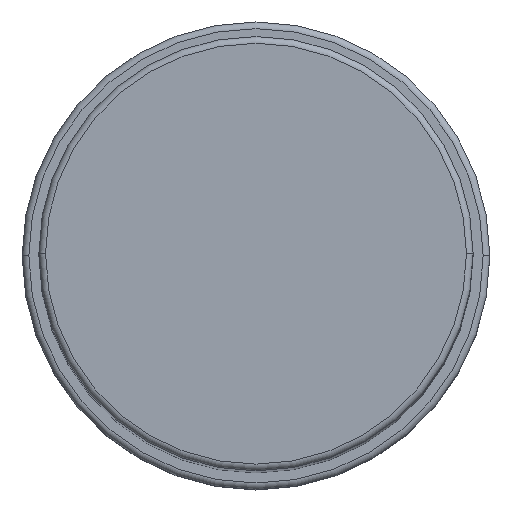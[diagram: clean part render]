
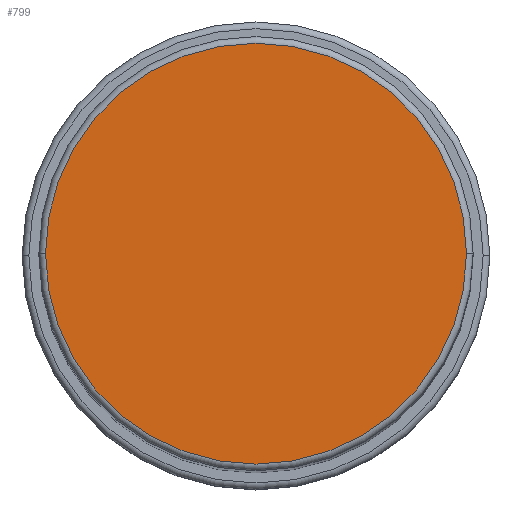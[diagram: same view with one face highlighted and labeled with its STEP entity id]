
A CAD part, top view. The second image highlights one B-rep face of the part: STEP entity #799.
In plain terms, the highlighted planar face has unit normal (0, 0, 1).
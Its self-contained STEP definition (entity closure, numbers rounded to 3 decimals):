
#38 = DIRECTION ( 'NONE',  ( 0., 0., 1. ) ) ;
#199 = VERTEX_POINT ( 'NONE', #1919 ) ;
#234 = CARTESIAN_POINT ( 'NONE',  ( 0., 0., 198. ) ) ;
#285 = CARTESIAN_POINT ( 'NONE',  ( 0., 0., 198. ) ) ;
#323 = DIRECTION ( 'NONE',  ( 1., 0., 0. ) ) ;
#337 = EDGE_CURVE ( 'NONE', #531, #199, #1595, .T. ) ;
#353 = AXIS2_PLACEMENT_3D ( 'NONE', #234, #692, #1336 ) ;
#457 = PLANE ( 'NONE',  #1093 ) ;
#516 = ORIENTED_EDGE ( 'NONE', *, *, #337, .T. ) ;
#521 = CARTESIAN_POINT ( 'NONE',  ( 31.5, 0., 198. ) ) ;
#531 = VERTEX_POINT ( 'NONE', #521 ) ;
#677 = ORIENTED_EDGE ( 'NONE', *, *, #1281, .T. ) ;
#692 = DIRECTION ( 'NONE',  ( 0., 0., 1. ) ) ;
#716 = CIRCLE ( 'NONE', #740, 31.5 ) ;
#740 = AXIS2_PLACEMENT_3D ( 'NONE', #285, #38, #790 ) ;
#790 = DIRECTION ( 'NONE',  ( 1., 0., 0. ) ) ;
#799 = ADVANCED_FACE ( 'NONE', ( #967 ), #457, .T. ) ;
#967 = FACE_OUTER_BOUND ( 'NONE', #1438, .T. ) ;
#1093 = AXIS2_PLACEMENT_3D ( 'NONE', #1113, #1270, #323 ) ;
#1113 = CARTESIAN_POINT ( 'NONE',  ( 0., 0., 198. ) ) ;
#1270 = DIRECTION ( 'NONE',  ( 0., 0., 1. ) ) ;
#1281 = EDGE_CURVE ( 'NONE', #199, #531, #716, .T. ) ;
#1336 = DIRECTION ( 'NONE',  ( 1., 0., 0. ) ) ;
#1438 = EDGE_LOOP ( 'NONE', ( #516, #677 ) ) ;
#1595 = CIRCLE ( 'NONE', #353, 31.5 ) ;
#1919 = CARTESIAN_POINT ( 'NONE',  ( -31.5, 0., 198. ) ) ;
